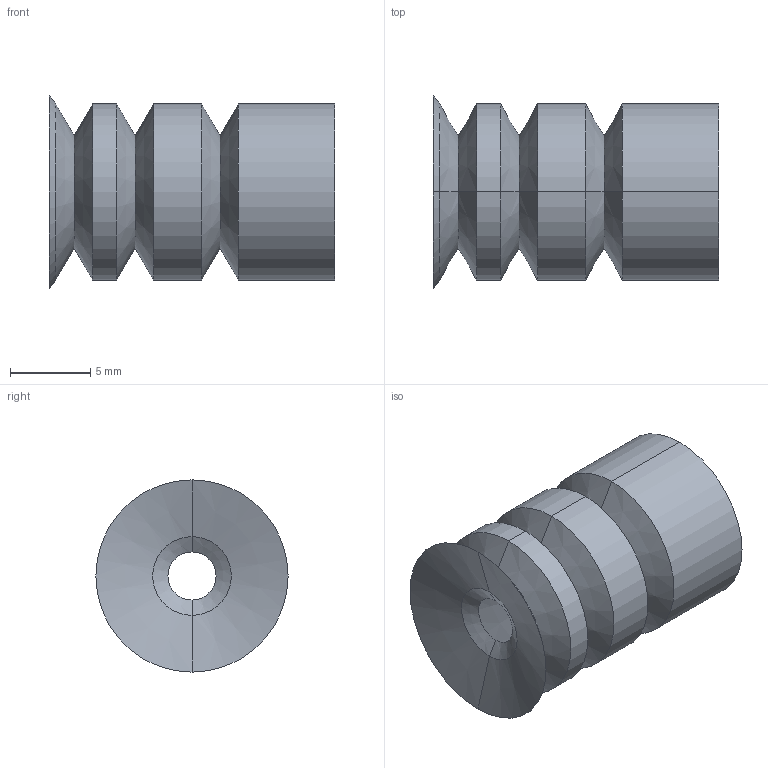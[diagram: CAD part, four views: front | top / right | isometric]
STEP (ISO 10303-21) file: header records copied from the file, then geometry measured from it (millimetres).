
FILE_DESCRIPTION (( 'STEP AP214' ), '1' );
FILE_NAME ('VSH-12R-3.STEP', '2019-11-14T01:50:31', ( '微软用户' ), ( '微软中国' ), 'SwSTEP 2.0', 'SolidWorks 2016', '' );
FILE_SCHEMA (( 'AUTOMOTIVE_DESIGN' ));
Length unit declared in the file: millimetre
Products named in the file (1): VSH-12R-3
Bounding box: 17.8 x 12 x 12 mm (x, y, z)
Volume: 842 mm3; surface area: 1444.3 mm2
Topology: 1 solids, 1 shells, 47 faces, 100 edges, 56 vertices
Faces by surface type: cone 28, cylinder 16, plane 3
Entity records: 1292 total; most frequent: DIRECTION 252, CARTESIAN_POINT 204, ORIENTED_EDGE 200, AXIS2_PLACEMENT_3D 104, EDGE_CURVE 100, VERTEX_POINT 56, CIRCLE 56, EDGE_LOOP 50
